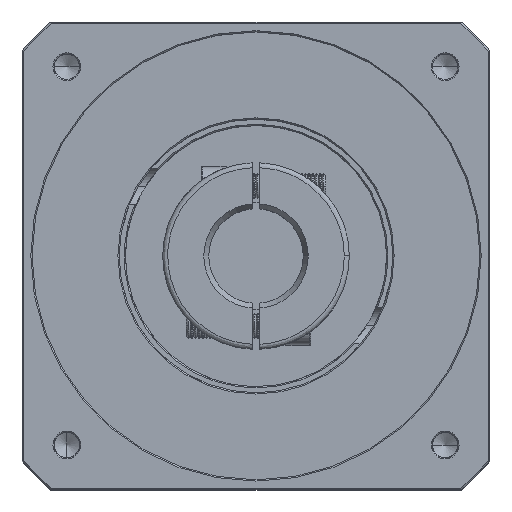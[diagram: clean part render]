
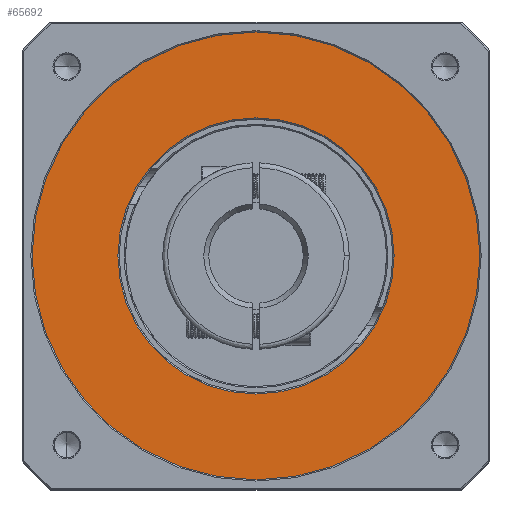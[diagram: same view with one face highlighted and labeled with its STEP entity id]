
A CAD part, top view. The second image highlights one B-rep face of the part: STEP entity #65692.
In plain terms, the highlighted planar face has unit normal (0, 0, 1).
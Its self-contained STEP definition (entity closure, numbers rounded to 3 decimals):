
#1789 = ORIENTED_EDGE ( 'NONE', *, *, #116739, .T. ) ;
#3313 = CARTESIAN_POINT ( 'NONE',  ( -106.794, 103.65, 45.009 ) ) ;
#3738 = DIRECTION ( 'NONE',  ( 1., 0., 0. ) ) ;
#5859 = CARTESIAN_POINT ( 'NONE',  ( -16.794, 103.65, 45.009 ) ) ;
#8140 = DIRECTION ( 'NONE',  ( 0., 0., -1. ) ) ;
#10291 = AXIS2_PLACEMENT_3D ( 'NONE', #63583, #34134, #53698 ) ;
#17223 = CARTESIAN_POINT ( 'NONE',  ( -106.794, 103.65, 45.009 ) ) ;
#19125 = PLANE ( 'NONE',  #31147 ) ;
#22273 = EDGE_LOOP ( 'NONE', ( #25119, #64817 ) ) ;
#23776 = EDGE_CURVE ( 'NONE', #24873, #52492, #53675, .T. ) ;
#24873 = VERTEX_POINT ( 'NONE', #78857 ) ;
#25119 = ORIENTED_EDGE ( 'NONE', *, *, #23776, .T. ) ;
#28697 = DIRECTION ( 'NONE',  ( 0., 0., 1. ) ) ;
#31147 = AXIS2_PLACEMENT_3D ( 'NONE', #87159, #28697, #68516 ) ;
#34134 = DIRECTION ( 'NONE',  ( 0., 0., 1. ) ) ;
#40550 = AXIS2_PLACEMENT_3D ( 'NONE', #3313, #92076, #3738 ) ;
#44557 = AXIS2_PLACEMENT_3D ( 'NONE', #17223, #8140, #66666 ) ;
#45088 = CIRCLE ( 'NONE', #44557, 55.5 ) ;
#50985 = VERTEX_POINT ( 'NONE', #5859 ) ;
#52492 = VERTEX_POINT ( 'NONE', #53840 ) ;
#53675 = CIRCLE ( 'NONE', #40550, 55.5 ) ;
#53698 = DIRECTION ( 'NONE',  ( 1., 0., 0. ) ) ;
#53840 = CARTESIAN_POINT ( 'NONE',  ( -162.294, 103.65, 45.009 ) ) ;
#55104 = CARTESIAN_POINT ( 'NONE',  ( -196.794, 103.65, 45.009 ) ) ;
#55867 = AXIS2_PLACEMENT_3D ( 'NONE', #120861, #72397, #62049 ) ;
#57555 = EDGE_LOOP ( 'NONE', ( #1789, #117367 ) ) ;
#62049 = DIRECTION ( 'NONE',  ( 1., 0., 0. ) ) ;
#63583 = CARTESIAN_POINT ( 'NONE',  ( -106.794, 103.65, 45.009 ) ) ;
#64817 = ORIENTED_EDGE ( 'NONE', *, *, #117671, .T. ) ;
#65692 = ADVANCED_FACE ( 'NONE', ( #67050, #88653 ), #19125, .T. ) ;
#66666 = DIRECTION ( 'NONE',  ( 1., 0., 0. ) ) ;
#67050 = FACE_BOUND ( 'NONE', #22273, .T. ) ;
#68516 = DIRECTION ( 'NONE',  ( 1., 0., 0. ) ) ;
#72397 = DIRECTION ( 'NONE',  ( 0., 0., 1. ) ) ;
#78857 = CARTESIAN_POINT ( 'NONE',  ( -51.294, 103.65, 45.009 ) ) ;
#87159 = CARTESIAN_POINT ( 'NONE',  ( -106.794, 103.65, 45.009 ) ) ;
#88653 = FACE_OUTER_BOUND ( 'NONE', #57555, .T. ) ;
#91924 = CIRCLE ( 'NONE', #10291, 90. ) ;
#92076 = DIRECTION ( 'NONE',  ( 0., 0., -1. ) ) ;
#108615 = VERTEX_POINT ( 'NONE', #55104 ) ;
#116159 = EDGE_CURVE ( 'NONE', #108615, #50985, #127585, .T. ) ;
#116739 = EDGE_CURVE ( 'NONE', #50985, #108615, #91924, .T. ) ;
#117367 = ORIENTED_EDGE ( 'NONE', *, *, #116159, .T. ) ;
#117671 = EDGE_CURVE ( 'NONE', #52492, #24873, #45088, .T. ) ;
#120861 = CARTESIAN_POINT ( 'NONE',  ( -106.794, 103.65, 45.009 ) ) ;
#127585 = CIRCLE ( 'NONE', #55867, 90. ) ;
